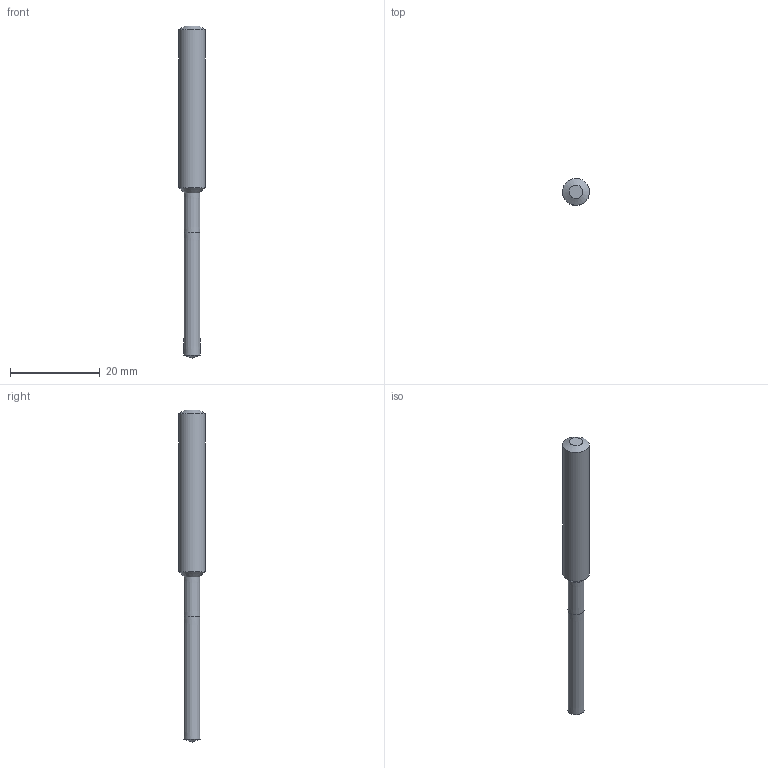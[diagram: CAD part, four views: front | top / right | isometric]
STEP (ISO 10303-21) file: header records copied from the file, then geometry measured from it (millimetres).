
FILE_DESCRIPTION(/* description */ (''),/* implementation_level */ '2;1');
FILE_NAME(/* name */ 'CAD_6618621_MOD_003_003_FR.stp',/* time_stamp */ '2014-06-16T15:45:36+02:00',/* author */ ('VR - Julian Pauli'),/* organization */ ('Walter AG'),/* preprocessor_version */ 'ST-DEVELOPER v11',/* originating_system */ 'SIEMENS UGS NX 6.0',/* authorisation */ '');
FILE_SCHEMA (('AUTOMOTIVE_DESIGN { 1 0 10303 214 1 1 1 1 }'));
Length unit declared in the file: millimetre
Products named in the file (1): DC150-6618621_simple
Bounding box: 5.99 x 5.99 x 74 mm (x, y, z)
Volume: 1394.1 mm3; surface area: 1155.7 mm2
Topology: 2 solids, 2 shells, 9 faces, 18 edges, 14 vertices
Faces by surface type: cone 5, plane 3, cylinder 1
Full cylindrical faces by diameter (mm): 6 x1
Entity records: 216 total; most frequent: DIRECTION 36, CARTESIAN_POINT 27, AXIS2_PLACEMENT_3D 17, EDGE_LOOP 14, ORIENTED_EDGE 14, FACE_BOUND 12, ADVANCED_FACE 9, VERTEX_POINT 8
